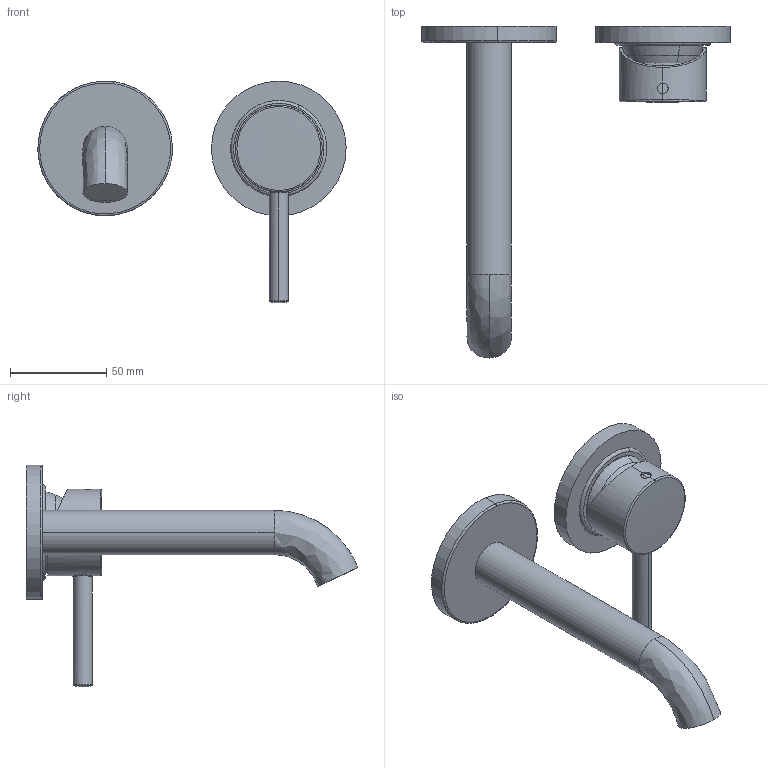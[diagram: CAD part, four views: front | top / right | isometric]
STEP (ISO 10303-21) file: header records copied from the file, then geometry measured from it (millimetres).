
FILE_DESCRIPTION (( 'STEP AP203' ), '1' );
FILE_NAME ('12319510 x architetti.STEP', '2024-07-30T08:11:17', ( '' ), ( '' ), 'SwSTEP 2.0', 'SolidWorks 2020', '' );
FILE_SCHEMA (( 'CONFIG_CONTROL_DESIGN' ));
Length unit declared in the file: millimetre
Products named in the file (1): 12319510 x architetti
Bounding box: 159.76 x 171.97 x 114.9 mm (x, y, z)
Volume: 183102.6 mm3; surface area: 41220.4 mm2
Topology: 2 solids, 6 shells, 80 faces, 181 edges, 114 vertices
Faces by surface type: cylinder 32, bspline 17, plane 17, cone 8, torus 4, sphere 2
Entity records: 5427 total; most frequent: CARTESIAN_POINT 3627, DIRECTION 364, ORIENTED_EDGE 358, EDGE_CURVE 179, AXIS2_PLACEMENT_3D 160, VERTEX_POINT 114, CIRCLE 96, EDGE_LOOP 87
